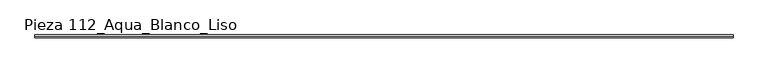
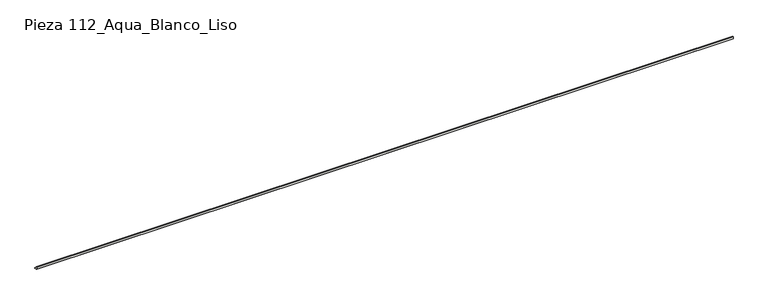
"""IFC4 building model written with IfcOpenShell, lengths in millimetres: slab geometry, ROSA GRES_112 : Pieza 112_Aqua_Blanco_Liso."""

import ifcopenshell
import ifcopenshell.guid

model = None  # the IFC model being written
_history = None  # IfcOwnerHistory: only IFC2X3 demands one
_inside = {}  # id of a spatial element -> (the spatial element, [elements in it])
_under = {}  # id of a project, library or spatial element -> (it, [spatial elements below it])
_declared = {}  # id of a project -> (the project, [libraries it declares])
_typed = {}  # id of a type object -> (the type object, [elements of that type])
_made_of = {}  # id of a material, layer set ... -> (it, [elements and type objects made of it])


def new_model(schema):
    """Start an empty IFC model of exactly this schema.

    Asked for "IFC4X3", IfcOpenShell would pick the latest addendum, in which some entities
    have other attributes; the version numbers below select the first issue.
    IFC2X3 requires an IfcOwnerHistory on every rooted entity: one is made here for all.
    """
    global model, _history
    if schema == "IFC4X3":
        model = ifcopenshell.file(schema_version=(4, 3, 0, 0))
    else:
        model = ifcopenshell.file(schema=schema)
    _inside.clear()
    _under.clear()
    _declared.clear()
    _typed.clear()
    _made_of.clear()
    _history = None
    if model.schema == "IFC2X3":
        org = make("IfcOrganization", Name="unknown")
        user = make(
            "IfcPersonAndOrganization",
            ThePerson=make("IfcPerson", FamilyName="unknown"),
            TheOrganization=org,
        )
        app = make(
            "IfcApplication",
            ApplicationDeveloper=org,
            Version="unknown",
            ApplicationFullName="unknown",
            ApplicationIdentifier="unknown",
        )
        _history = make(
            "IfcOwnerHistory",
            OwningUser=user,
            OwningApplication=app,
            ChangeAction="ADDED",
            CreationDate=0,
        )
    return model


def make(cls, **values):
    """One entity of the class cls with the attributes given. An attribute that is None is left unset."""
    return model.create_entity(
        cls, **{name: value for name, value in values.items() if value is not None}
    )


def rooted(cls, **values):
    """An entity with a GlobalId (a new one), such as an element, a storey or a relation."""
    return make(cls, GlobalId=ifcopenshell.guid.new(), OwnerHistory=_history, **values)


def si_unit(unit_type, name, prefix=None):
    """IfcSIUnit, for example si_unit("LENGTHUNIT", "METRE", prefix="MILLI")."""
    return make("IfcSIUnit", UnitType=unit_type, Prefix=prefix, Name=name)


def assignment(units):
    """IfcUnitAssignment: the units of a project."""
    return None if units is None else make("IfcUnitAssignment", Units=units)


def point(xyz):
    """IfcCartesianPoint."""
    return None if xyz is None else make("IfcCartesianPoint", Coordinates=xyz)


def direction(xyz):
    """IfcDirection."""
    return None if xyz is None else make("IfcDirection", DirectionRatios=xyz)


def frame(location, z_axis=None, x_axis=None):
    """IfcAxis2Placement3D, a coordinate frame: its origin and axes. An axis left out is left unset."""
    return make(
        "IfcAxis2Placement3D",
        Location=point(location),
        Axis=direction(z_axis),
        RefDirection=direction(x_axis),
    )


def frame_2d(location, x_axis=None):
    """IfcAxis2Placement2D, a coordinate frame in the plane: its origin and x axis."""
    return make(
        "IfcAxis2Placement2D", Location=point(location), RefDirection=direction(x_axis)
    )


def origin():
    """The frame at (0, 0, 0) with its axes left unset."""
    return frame((0.0, 0.0, 0.0))


def place(relative_to, where):
    """IfcLocalPlacement: puts the frame where relative to a parent placement (None: the world)."""
    return make(
        "IfcLocalPlacement", PlacementRelTo=relative_to, RelativePlacement=where
    )


def context(
    kind, dimensions, precision=None, world=None, true_north=None, identifier=None
):
    """IfcGeometricRepresentationContext, for example the 3D "Model" context."""
    return make(
        "IfcGeometricRepresentationContext",
        ContextIdentifier=identifier,
        ContextType=kind,
        CoordinateSpaceDimension=dimensions,
        Precision=precision,
        WorldCoordinateSystem=world,
        TrueNorth=true_north,
    )


def project(units=None, contexts=None):
    """IfcProject with its units and contexts."""
    return rooted(
        "IfcProject",
        Name="project",
        RepresentationContexts=contexts,
        UnitsInContext=assignment(units),
    )


def spatial(cls, under=None, at=None, **own):
    """A site, building, storey or space (cls), placed at a placement, below another one or the project."""
    s = rooted(cls, ObjectPlacement=at, **own)
    if under is not None:
        _under.setdefault(under.id(), (under, []))[1].append(s)
    return s


def polyline(points):
    """IfcPolyline through the points."""
    return make("IfcPolyline", Points=[point(p) for p in points])


def circle_curve(where, radius):
    """IfcCircle in the frame where."""
    return make("IfcCircle", Position=where, Radius=radius)


def trimmed(basis, trim1, trim2, sense, master):
    """IfcTrimmedCurve: the piece of a basis curve between two trims."""
    return make(
        "IfcTrimmedCurve",
        BasisCurve=basis,
        Trim1=trim1,
        Trim2=trim2,
        SenseAgreement=sense,
        MasterRepresentation=master,
    )


def segment(curve, same_sense, transition):
    """IfcCompositeCurveSegment."""
    return make(
        "IfcCompositeCurveSegment",
        Transition=transition,
        SameSense=same_sense,
        ParentCurve=curve,
    )


def composite_curve(segments, self_intersect=None):
    """IfcCompositeCurve: segments joined end to end."""
    return make("IfcCompositeCurve", Segments=segments, SelfIntersect=self_intersect)


def outline(outer, holes=None, kind="AREA"):
    """IfcArbitraryClosedProfileDef: a profile drawn as a closed curve; with holes, ...WithVoids."""
    if holes is None:
        return make("IfcArbitraryClosedProfileDef", ProfileType=kind, OuterCurve=outer)
    return make(
        "IfcArbitraryProfileDefWithVoids",
        ProfileType=kind,
        OuterCurve=outer,
        InnerCurves=holes,
    )


def extrude(swept, where, along, depth):
    """IfcExtrudedAreaSolid: the profile swept, set in the frame where, extruded along a direction by depth."""
    return make(
        "IfcExtrudedAreaSolid",
        SweptArea=swept,
        Position=where,
        ExtrudedDirection=direction(along),
        Depth=depth,
    )


def shape(context_of_items, identifier, shape_type, items):
    """IfcShapeRepresentation: the items that make up one representation, for example the "Body"."""
    return make(
        "IfcShapeRepresentation",
        ContextOfItems=context_of_items,
        RepresentationIdentifier=identifier,
        RepresentationType=shape_type,
        Items=items,
    )


def source(mapping_origin, context_of_items, identifier, shape_type, items):
    """IfcRepresentationMap: a shape defined once, which mapped items show again and again."""
    return make(
        "IfcRepresentationMap",
        MappingOrigin=mapping_origin,
        MappedRepresentation=shape(context_of_items, identifier, shape_type, items),
    )


def transform(
    local_origin,
    x_axis=None,
    y_axis=None,
    z_axis=None,
    scale=None,
    scale2=None,
    scale3=None,
    uniform=True,
):
    """IfcCartesianTransformationOperator3D, or its non-uniform kind. x_axis, y_axis, z_axis: its Axis1, 2, 3."""
    if uniform:
        return make(
            "IfcCartesianTransformationOperator3D",
            Axis1=direction(x_axis),
            Axis2=direction(y_axis),
            LocalOrigin=point(local_origin),
            Scale=scale,
            Axis3=direction(z_axis),
        )
    return make(
        "IfcCartesianTransformationOperator3DnonUniform",
        Axis1=direction(x_axis),
        Axis2=direction(y_axis),
        LocalOrigin=point(local_origin),
        Scale=scale,
        Axis3=direction(z_axis),
        Scale2=scale2,
        Scale3=scale3,
    )


def mapped(mapping_source, mapping_target):
    """IfcMappedItem: shows the shape of a source again, moved by a transform."""
    return make(
        "IfcMappedItem", MappingSource=mapping_source, MappingTarget=mapping_target
    )


def made_of(thing, what):
    """Note that an element or type object is made of a material, layer set ...; save() writes the relation."""
    if what is not None:
        _made_of.setdefault(what.id(), (what, []))[1].append(thing)
    return thing


def element(
    cls,
    number,
    at=None,
    inside=None,
    cuts=None,
    type_object=None,
    material=None,
    context=None,
    identifier="Body",
    shape_type=None,
    held_by="IfcProductDefinitionShape",
    body=None,
    shapes=None,
    **own,
):
    """One element of the class cls, such as IfcWall. Its Tag is "e" and its number.

    at: its placement. inside: the storey or other place that contains it. cuts: it is an
    opening in that element (IfcRelVoidsElement). A single representation is given by context,
    identifier, shape_type and body (its items); several are given by shapes. held_by: the class
    of the entity that holds the representations. save() writes the other relations.
    """
    e = rooted(cls, Tag="e%d" % number, ObjectPlacement=at, **own)
    if body is not None:
        shapes = [shape(context, identifier, shape_type, body)]
    if shapes is not None:
        e.Representation = make(held_by, Representations=shapes)
    if inside is not None:
        _inside.setdefault(inside.id(), (inside, []))[1].append(e)
    if cuts is not None:
        rooted(
            "IfcRelVoidsElement", RelatingBuildingElement=cuts, RelatedOpeningElement=e
        )
    if type_object is not None:
        _typed.setdefault(type_object.id(), (type_object, []))[1].append(e)
    return made_of(e, material)


def aggregate(whole, parts):
    """IfcRelAggregates: a whole, such as a stair, and the parts it consists of."""
    return rooted("IfcRelAggregates", RelatingObject=whole, RelatedObjects=parts)


def save(model, path):
    """Write the relations noted so far, then the file.

    IfcRelAggregates (storeys below a building ...), IfcRelContainedInSpatialStructure (elements
    in a storey), IfcRelDefinesByType, IfcRelAssociatesMaterial and IfcRelDeclares: one each for
    every whole, place, type object, material and project.
    """
    for whole, parts in _under.values():
        aggregate(whole, parts)
    for where, things in _inside.values():
        rooted(
            "IfcRelContainedInSpatialStructure",
            RelatedElements=things,
            RelatingStructure=where,
        )
    for kind, things in _typed.values():
        rooted("IfcRelDefinesByType", RelatedObjects=things, RelatingType=kind)
    for what, things in _made_of.values():
        rooted("IfcRelAssociatesMaterial", RelatedObjects=things, RelatingMaterial=what)
    for by, libraries in _declared.values():
        rooted("IfcRelDeclares", RelatingContext=by, RelatedDefinitions=libraries)
    model.write(path)


def pieza_112_aqua_blanco_liso_ae72431c(model_context):
    return source(origin(), model_context, "Body", "SweptSolid", [
        extrude(outline(composite_curve([segment(polyline([(-9.9734114, 8.7114978), (-9.9734114, 40.0), (0.0, 40.0)]), True, "CONTINUOUS"), segment(trimmed(circle_curve(frame_2d((30.0221432, 39.9955547)), 30.0221435), [point((0.0, 40.0))], [point((30.0265886, 9.9734114))], True, "CARTESIAN"), True, "CONTINUOUS"), segment(polyline([(30.0265886, 9.9734114), (30.0265886, 0.0), (-1.2619137, 0.0), (-9.9734114, 8.7114978)]), True, "CONTINUOUS")], self_intersect=False)), frame((0.0, 0.0, 0.0), z_axis=(1.0, 0.0, 0.0), x_axis=(0.0, 1.0, 0.0)), (0.0, 0.0, 1.0), 10039.5531771),
    ])


if __name__ == "__main__":
    model = new_model("IFC4")
    model_context = context("Model", 3, world=origin())
    ifc_project = project(units=[si_unit("LENGTHUNIT", "METRE", prefix="MILLI")], contexts=[model_context])
    site = spatial("IfcSite", under=ifc_project)
    building = spatial("IfcBuilding", under=site)
    placement = place(None, origin())
    pieza_112_aqua_blanco_liso_shape = pieza_112_aqua_blanco_liso_ae72431c(model_context)
    element("IfcSlab", 1, ObjectType="ROSA GRES_112 : Pieza 112_Aqua_Blanco_Liso", at=placement, inside=building, context=model_context, shape_type="MappedRepresentation", body=[
        mapped(pieza_112_aqua_blanco_liso_shape, transform((0.0, 0.0, 0.0), x_axis=(1.0, 0.0, 0.0), y_axis=(0.0, 1.0, 0.0), z_axis=(0.0, 0.0, 1.0))),
    ])
    save(model, "model.ifc")
